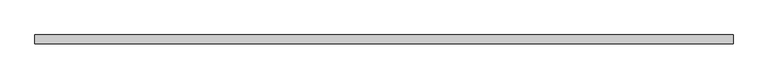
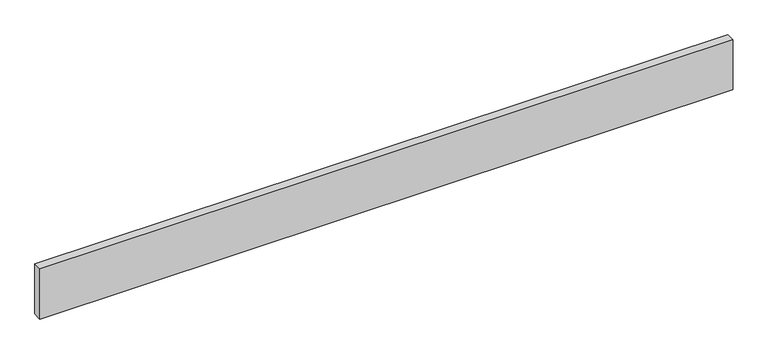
"""IFC4 building model written with IfcOpenShell, lengths in millimetres: plate geometry, Lod 200 Regolare 800 Horizontal : Azuro."""

from ifc_helpers import new_model, si_unit, origin, origin_with_axes, place, context, project, spatial, polyline, outline, extrude, source, transform, mapped, element, save


def plate_4867db41(model_context):
    return source(origin(), model_context, "Body", "SweptSolid", [
        extrude(outline(polyline([(1572.5, -40.0), (-1572.5, -40.0), (-1572.5, 0.0), (1572.5, 0.0), (1572.5, -40.0)])), origin_with_axes(), (0.0, 0.0, 1.0), 240.0),
    ])


if __name__ == "__main__":
    model = new_model("IFC4")
    model_context = context("Model", 3, world=origin())
    ifc_project = project(units=[si_unit("LENGTHUNIT", "METRE", prefix="MILLI")], contexts=[model_context])
    site = spatial("IfcSite", under=ifc_project)
    building = spatial("IfcBuilding", under=site)
    placement = place(None, origin())
    plate_shape = plate_4867db41(model_context)
    element("IfcPlate", 1, ObjectType="Lod 200 Regolare 800 Horizontal : Azuro", at=placement, inside=building, context=model_context, shape_type="MappedRepresentation", body=[
        mapped(plate_shape, transform((0.0, 0.0, 0.0), x_axis=(1.0, 0.0, 0.0), y_axis=(0.0, 1.0, 0.0), z_axis=(0.0, 0.0, 1.0))),
    ])
    save(model, "model.ifc")
